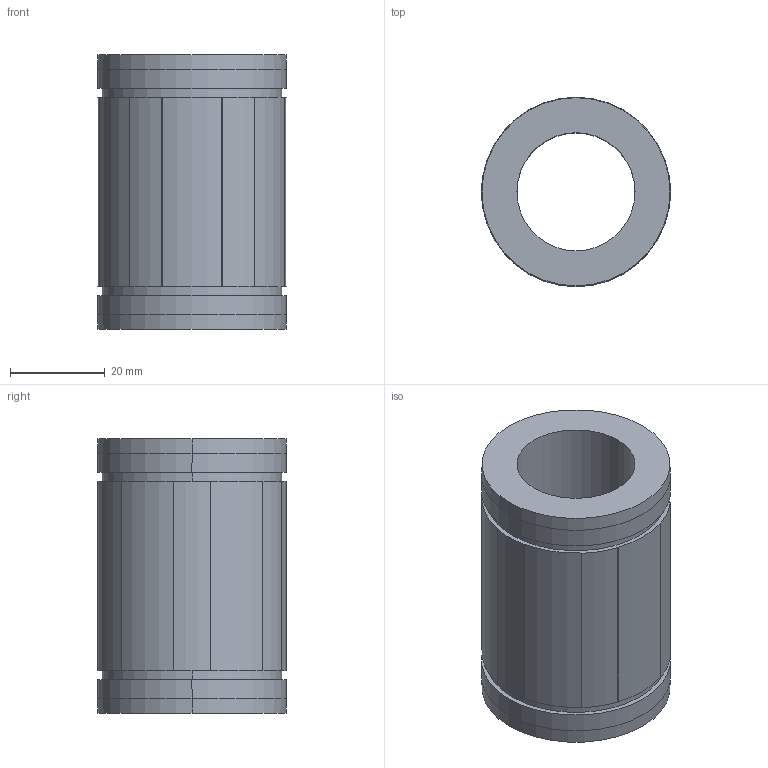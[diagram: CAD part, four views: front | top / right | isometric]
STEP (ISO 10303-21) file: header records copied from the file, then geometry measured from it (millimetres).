
FILE_DESCRIPTION((''),'2;1');
FILE_NAME('C:\Documents and Settings\ｿﾀﾀ蠑ｷ1\ｹﾙﾅﾁ ﾈｭｸ饅\ｺﾎﾇｰﾆﾄﾀﾏ\ﾁｦﾇｰ\LMES__UU\LMES25UU.stp','2005-06-15T14:05:18',('ｿﾀﾀ蠑ｷ1'),(''),'Autodesk Inventor 9','Autodesk Inventor 9','');
FILE_SCHEMA(('AUTOMOTIVE_DESIGN { 1 0 10303 214 1 1 1 1 }'));
Length unit declared in the file: millimetre
Products named in the file (1): LMES__
Bounding box: 40 x 40 x 58 mm (x, y, z)
Volume: 43600.5 mm3; surface area: 13823.2 mm2
Topology: 1 solids, 1 shells, 44 faces, 112 edges, 74 vertices
Faces by surface type: cylinder 22, plane 18, cone 4
Entity records: 1377 total; most frequent: DIRECTION 252, CARTESIAN_POINT 231, ORIENTED_EDGE 224, EDGE_CURVE 112, AXIS2_PLACEMENT_3D 95, VERTEX_POINT 74, VECTOR 62, LINE 62
